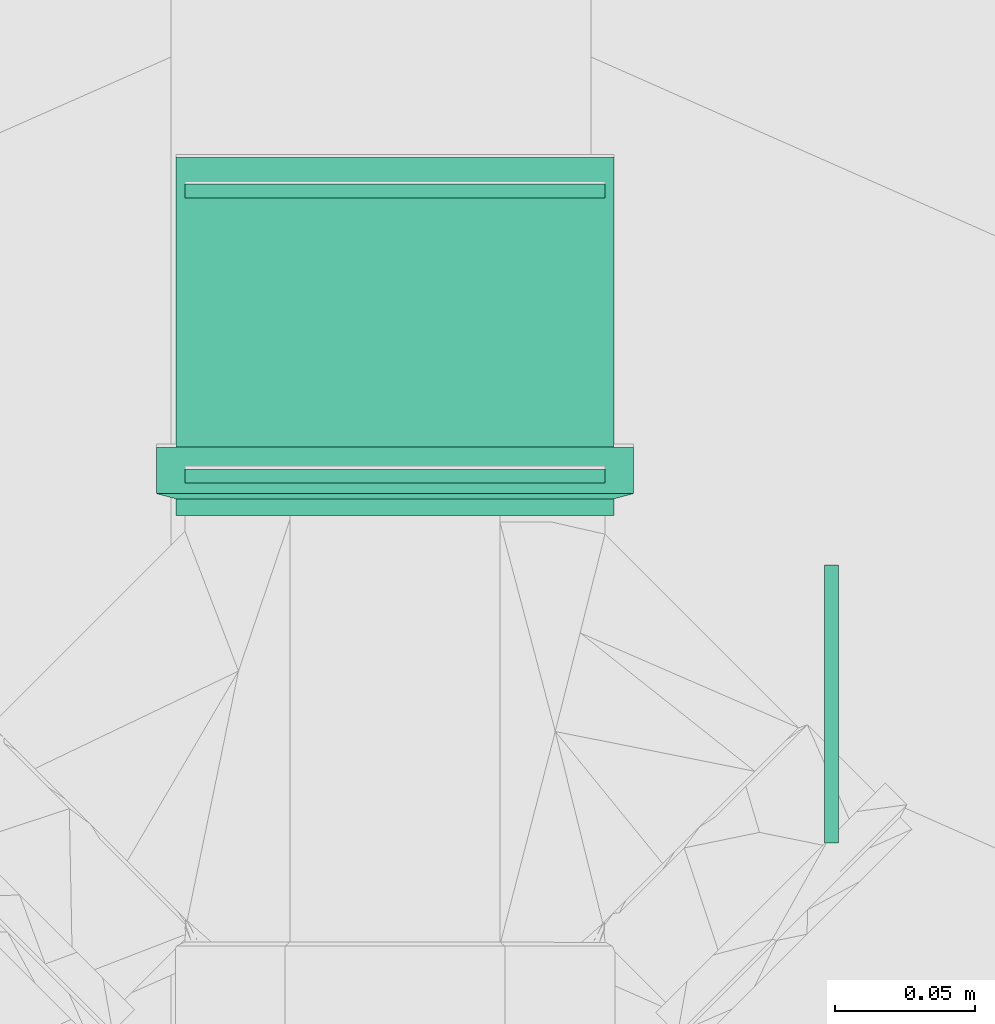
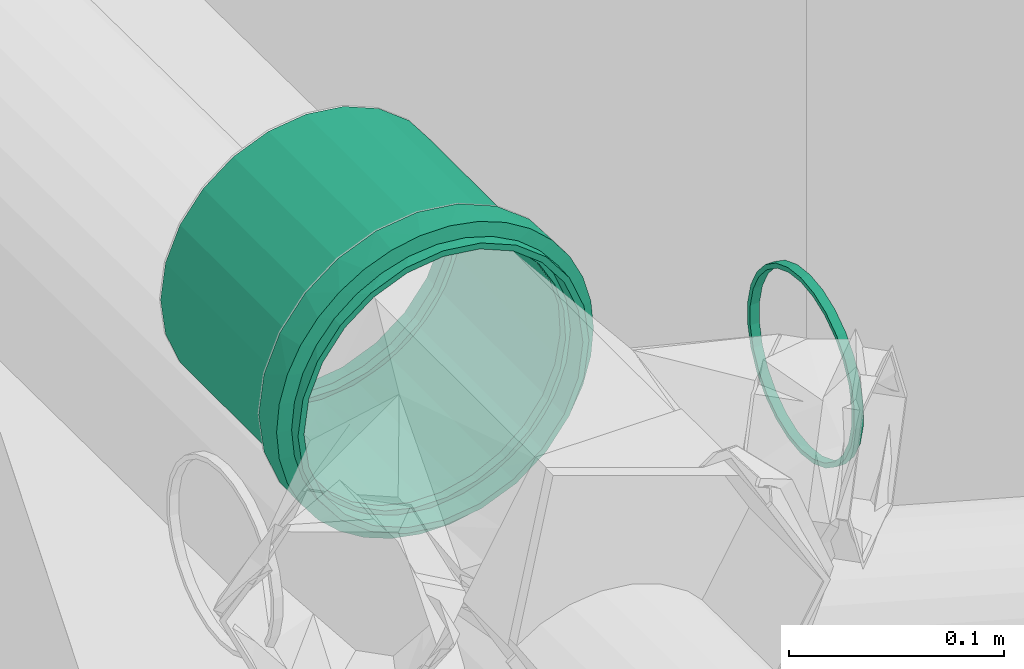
# One storey, part 98 of 166: 4 flow fittings.
"""IFC2X3 building model written with IfcOpenShell, lengths in metres."""

import ifcopenshell
import ifcopenshell.guid

model = None  # the IFC model being written
_history = None  # IfcOwnerHistory: only IFC2X3 demands one
_inside = {}  # id of a spatial element -> (the spatial element, [elements in it])
_under = {}  # id of a project, library or spatial element -> (it, [spatial elements below it])
_declared = {}  # id of a project -> (the project, [libraries it declares])
_typed = {}  # id of a type object -> (the type object, [elements of that type])
_made_of = {}  # id of a material, layer set ... -> (it, [elements and type objects made of it])


def new_model(schema):
    """Start an empty IFC model of exactly this schema.

    Asked for "IFC4X3", IfcOpenShell would pick the latest addendum, in which some entities
    have other attributes; the version numbers below select the first issue.
    IFC2X3 requires an IfcOwnerHistory on every rooted entity: one is made here for all.
    """
    global model, _history
    if schema == "IFC4X3":
        model = ifcopenshell.file(schema_version=(4, 3, 0, 0))
    else:
        model = ifcopenshell.file(schema=schema)
    _inside.clear()
    _under.clear()
    _declared.clear()
    _typed.clear()
    _made_of.clear()
    _history = None
    if model.schema == "IFC2X3":
        org = make("IfcOrganization", Name="unknown")
        user = make(
            "IfcPersonAndOrganization",
            ThePerson=make("IfcPerson", FamilyName="unknown"),
            TheOrganization=org,
        )
        app = make(
            "IfcApplication",
            ApplicationDeveloper=org,
            Version="unknown",
            ApplicationFullName="unknown",
            ApplicationIdentifier="unknown",
        )
        _history = make(
            "IfcOwnerHistory",
            OwningUser=user,
            OwningApplication=app,
            ChangeAction="ADDED",
            CreationDate=0,
        )
    return model


def make(cls, **values):
    """One entity of the class cls with the attributes given. An attribute that is None is left unset."""
    return model.create_entity(
        cls, **{name: value for name, value in values.items() if value is not None}
    )


def entity(cls, *values):
    """Any entity or typed value of the class cls, its attributes in the order of the schema. None: left unset."""
    e = model.create_entity(cls)
    for i, value in enumerate(values):
        if value is not None:
            e[i] = value
    return e


def rooted(cls, **values):
    """An entity with a GlobalId (a new one), such as an element, a storey or a relation."""
    return make(cls, GlobalId=ifcopenshell.guid.new(), OwnerHistory=_history, **values)


def si_unit(unit_type, name, prefix=None):
    """IfcSIUnit, for example si_unit("LENGTHUNIT", "METRE", prefix="MILLI")."""
    return make("IfcSIUnit", UnitType=unit_type, Prefix=prefix, Name=name)


def converted_unit(unit_type, name, factor, base, dimensions=None, offset=None):
    """IfcConversionBasedUnit, such as the inch: factor (a typed value) times the base unit."""
    return make(
        "IfcConversionBasedUnit"
        if offset is None
        else "IfcConversionBasedUnitWithOffset",
        ConversionOffset=offset,
        Dimensions=None
        if dimensions is None
        else entity("IfcDimensionalExponents", *dimensions),
        UnitType=unit_type,
        Name=name,
        ConversionFactor=make(
            "IfcMeasureWithUnit", ValueComponent=factor, UnitComponent=base
        ),
    )


def assignment(units):
    """IfcUnitAssignment: the units of a project."""
    return None if units is None else make("IfcUnitAssignment", Units=units)


def point(xyz):
    """IfcCartesianPoint."""
    return None if xyz is None else make("IfcCartesianPoint", Coordinates=xyz)


def direction(xyz):
    """IfcDirection."""
    return None if xyz is None else make("IfcDirection", DirectionRatios=xyz)


def frame(location, z_axis=None, x_axis=None):
    """IfcAxis2Placement3D, a coordinate frame: its origin and axes. An axis left out is left unset."""
    return make(
        "IfcAxis2Placement3D",
        Location=point(location),
        Axis=direction(z_axis),
        RefDirection=direction(x_axis),
    )


def frame_2d(location, x_axis=None):
    """IfcAxis2Placement2D, a coordinate frame in the plane: its origin and x axis."""
    return make(
        "IfcAxis2Placement2D", Location=point(location), RefDirection=direction(x_axis)
    )


def origin():
    """The frame at (0, 0, 0) with its axes left unset."""
    return frame((0.0, 0.0, 0.0))


def place(relative_to, where):
    """IfcLocalPlacement: puts the frame where relative to a parent placement (None: the world)."""
    return make(
        "IfcLocalPlacement", PlacementRelTo=relative_to, RelativePlacement=where
    )


def context(
    kind, dimensions, precision=None, world=None, true_north=None, identifier=None
):
    """IfcGeometricRepresentationContext, for example the 3D "Model" context."""
    return make(
        "IfcGeometricRepresentationContext",
        ContextIdentifier=identifier,
        ContextType=kind,
        CoordinateSpaceDimension=dimensions,
        Precision=precision,
        WorldCoordinateSystem=world,
        TrueNorth=true_north,
    )


def subcontext(parent, identifier, kind, view, scale=None):
    """IfcGeometricRepresentationSubContext, for example "Body" below "Model"."""
    return make(
        "IfcGeometricRepresentationSubContext",
        ContextIdentifier=identifier,
        ContextType=kind,
        ParentContext=parent,
        TargetScale=scale,
        TargetView=view,
    )


def project(units=None, contexts=None):
    """IfcProject with its units and contexts."""
    return rooted(
        "IfcProject",
        Name="project",
        RepresentationContexts=contexts,
        UnitsInContext=assignment(units),
    )


def spatial(cls, under=None, at=None, **own):
    """A site, building, storey or space (cls), placed at a placement, below another one or the project."""
    s = rooted(cls, ObjectPlacement=at, **own)
    if under is not None:
        _under.setdefault(under.id(), (under, []))[1].append(s)
    return s


def profile(cls, at=None, kind="AREA", **sizes):
    """A parametric profile (cls). Its sizes go by their IFC names, for example OverallWidth=200.0."""
    return make(cls, ProfileType=kind, Position=at, **sizes)


def hollow_circle(**sizes):
    """IfcCircleHollowProfileDef."""
    return profile("IfcCircleHollowProfileDef", **sizes)


def extrude(swept, where, along, depth):
    """IfcExtrudedAreaSolid: the profile swept, set in the frame where, extruded along a direction by depth."""
    return make(
        "IfcExtrudedAreaSolid",
        SweptArea=swept,
        Position=where,
        ExtrudedDirection=direction(along),
        Depth=depth,
    )


def faces_of(points, faces, orient=None, outer=None):
    """IfcFace entities. A face is a list of loops; a loop is a list of indices into points, from 0.

    orient and outer hold one flag for each loop. By default every Orientation is true, the
    first loop of a face is its IfcFaceOuterBound and the others are IfcFaceBound.
    """
    made = []
    for i, loops in enumerate(faces):
        bounds = []
        for j, loop in enumerate(loops):
            is_outer = j == 0 if outer is None else outer[i][j]
            bounds.append(
                make(
                    "IfcFaceOuterBound" if is_outer else "IfcFaceBound",
                    Bound=make("IfcPolyLoop", Polygon=[points[k] for k in loop]),
                    Orientation=True if orient is None else orient[i][j],
                )
            )
        made.append(make("IfcFace", Bounds=bounds))
    return made


def faceted_brep(points, faces, orient=None, outer=None, voids=None):
    """IfcFacetedBrep: a solid bounded by flat faces; with voids (closed shells), ...WithVoids."""
    shared = [point(p) for p in points]
    hull = make("IfcClosedShell", CfsFaces=faces_of(shared, faces, orient, outer))
    if voids is None:
        return make("IfcFacetedBrep", Outer=hull)
    return make(
        "IfcFacetedBrepWithVoids",
        Outer=hull,
        Voids=[
            make(cls, CfsFaces=faces_of(shared, fs, o, b)) for cls, fs, o, b in voids
        ],
    )


def shape(context_of_items, identifier, shape_type, items):
    """IfcShapeRepresentation: the items that make up one representation, for example the "Body"."""
    return make(
        "IfcShapeRepresentation",
        ContextOfItems=context_of_items,
        RepresentationIdentifier=identifier,
        RepresentationType=shape_type,
        Items=items,
    )


def source(mapping_origin, context_of_items, identifier, shape_type, items):
    """IfcRepresentationMap: a shape defined once, which mapped items show again and again."""
    return make(
        "IfcRepresentationMap",
        MappingOrigin=mapping_origin,
        MappedRepresentation=shape(context_of_items, identifier, shape_type, items),
    )


def transform(
    local_origin,
    x_axis=None,
    y_axis=None,
    z_axis=None,
    scale=None,
    scale2=None,
    scale3=None,
    uniform=True,
):
    """IfcCartesianTransformationOperator3D, or its non-uniform kind. x_axis, y_axis, z_axis: its Axis1, 2, 3."""
    if uniform:
        return make(
            "IfcCartesianTransformationOperator3D",
            Axis1=direction(x_axis),
            Axis2=direction(y_axis),
            LocalOrigin=point(local_origin),
            Scale=scale,
            Axis3=direction(z_axis),
        )
    return make(
        "IfcCartesianTransformationOperator3DnonUniform",
        Axis1=direction(x_axis),
        Axis2=direction(y_axis),
        LocalOrigin=point(local_origin),
        Scale=scale,
        Axis3=direction(z_axis),
        Scale2=scale2,
        Scale3=scale3,
    )


def mapped(mapping_source, mapping_target):
    """IfcMappedItem: shows the shape of a source again, moved by a transform."""
    return make(
        "IfcMappedItem", MappingSource=mapping_source, MappingTarget=mapping_target
    )


def material(Name=None, Category=None):
    """IfcMaterial."""
    return make("IfcMaterial", Name=Name, Category=Category)


def made_of(thing, what):
    """Note that an element or type object is made of a material, layer set ...; save() writes the relation."""
    if what is not None:
        _made_of.setdefault(what.id(), (what, []))[1].append(thing)
    return thing


def type_object(cls, material=None, **own):
    """A type object (cls), such as IfcWallType, which elements share."""
    return made_of(rooted(cls, **own), material)


def type_shapes(of_type, sources):
    """Give a type object the sources (RepresentationMaps) that its elements show as mapped items."""
    of_type.RepresentationMaps = sources


def element(
    cls,
    number,
    at=None,
    inside=None,
    cuts=None,
    type_object=None,
    material=None,
    context=None,
    identifier="Body",
    shape_type=None,
    held_by="IfcProductDefinitionShape",
    body=None,
    shapes=None,
    **own,
):
    """One element of the class cls, such as IfcWall. Its Tag is "e" and its number.

    at: its placement. inside: the storey or other place that contains it. cuts: it is an
    opening in that element (IfcRelVoidsElement). A single representation is given by context,
    identifier, shape_type and body (its items); several are given by shapes. held_by: the class
    of the entity that holds the representations. save() writes the other relations.
    """
    e = rooted(cls, Tag="e%d" % number, ObjectPlacement=at, **own)
    if body is not None:
        shapes = [shape(context, identifier, shape_type, body)]
    if shapes is not None:
        e.Representation = make(held_by, Representations=shapes)
    if inside is not None:
        _inside.setdefault(inside.id(), (inside, []))[1].append(e)
    if cuts is not None:
        rooted(
            "IfcRelVoidsElement", RelatingBuildingElement=cuts, RelatedOpeningElement=e
        )
    if type_object is not None:
        _typed.setdefault(type_object.id(), (type_object, []))[1].append(e)
    return made_of(e, material)


def aggregate(whole, parts):
    """IfcRelAggregates: a whole, such as a stair, and the parts it consists of."""
    return rooted("IfcRelAggregates", RelatingObject=whole, RelatedObjects=parts)


def save(model, path):
    """Write the relations noted so far, then the file.

    IfcRelAggregates (storeys below a building ...), IfcRelContainedInSpatialStructure (elements
    in a storey), IfcRelDefinesByType, IfcRelAssociatesMaterial and IfcRelDeclares: one each for
    every whole, place, type object, material and project.
    """
    for whole, parts in _under.values():
        aggregate(whole, parts)
    for where, things in _inside.values():
        rooted(
            "IfcRelContainedInSpatialStructure",
            RelatedElements=things,
            RelatingStructure=where,
        )
    for kind, things in _typed.values():
        rooted("IfcRelDefinesByType", RelatedObjects=things, RelatingType=kind)
    for what, things in _made_of.values():
        rooted("IfcRelAssociatesMaterial", RelatedObjects=things, RelatingMaterial=what)
    for by, libraries in _declared.values():
        rooted("IfcRelDeclares", RelatingContext=by, RelatedDefinitions=libraries)
    model.write(path)


model = new_model("IFC2X3")

# Units and contexts
model_context = context("Model", 3, precision=1e-05, world=origin(), true_north=direction((6.123233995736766e-17, 1.0)))
body_context = subcontext(model_context, "Body", "Model", "MODEL_VIEW")
ifc_project = project(units=[si_unit("LENGTHUNIT", "METRE"), converted_unit("PLANEANGLEUNIT", "DEGREE", entity("IfcPlaneAngleMeasure", 0.017453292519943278), si_unit("PLANEANGLEUNIT", "RADIAN"), dimensions=[0, 0, 0, 0, 0, 0, 0]), si_unit("AREAUNIT", "SQUARE_METRE")], contexts=[model_context])

# Site, building, storey
site_placement = place(None, origin())
site = spatial("IfcSite", under=ifc_project, at=site_placement, Name="Default", CompositionType="ELEMENT")
building_placement = place(site_placement, origin())
building = spatial("IfcBuilding", under=site, at=building_placement, Name="CASA DE ACOLHIDA PARA IDOSOS", CompositionType="ELEMENT")
storey_placement = place(building_placement, frame((0.0, 0.0, -1.7499999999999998)))
storey = spatial("IfcBuildingStorey", under=building, at=storey_placement, Name="IMPLANTAÇÃO DRENAGEM", CompositionType="ELEMENT", Elevation=-1.7499999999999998)

# Flow fittings
ifc_material_1 = material(Name="PVC Bege Pérola")
pipe_fitting_type_1 = type_object("IfcPipeFittingType", Name="PLUV_Serie Reforcada_Luva Simples:Standard", PredefinedType="NOTDEFINED", material=ifc_material_1)
shared_shape_1 = source(origin(), body_context, "Body", "Brep", [
    faceted_brep([(0.02451000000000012, 0.04262500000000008, -0.07382866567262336), (0.02451000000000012, 0.06028085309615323, -0.06028085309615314), (0.02451000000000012, 0.039124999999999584, -0.06776648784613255), (0.02451000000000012, 0.020252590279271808, -0.0755836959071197), (0.02451000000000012, 0.022064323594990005, -0.08234517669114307), (0.02451000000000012, 0.05533110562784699, -0.055331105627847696), (0.02451000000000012, 0.07382866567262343, -0.04262499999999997), (0.02451000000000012, 0.06776648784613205, -0.03912500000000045), (0.02451000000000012, 0.07558369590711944, -0.02025259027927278), (0.02451000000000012, 0.08234517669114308, -0.022064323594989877), (0.02451000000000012, 0.07825, 0.0), (0.02451000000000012, 0.08525, 0.0), (0.02451000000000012, 0.07558369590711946, 0.020252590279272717), (0.02451000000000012, 0.0823451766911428, 0.022064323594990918), (0.02451000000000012, 0.06776648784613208, 0.039125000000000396), (0.02451000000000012, 0.07382866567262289, 0.04262500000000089), (0.02451000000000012, 0.05533110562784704, 0.055331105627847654), (0.02451000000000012, 0.06028085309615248, 0.0602808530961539), (0.02451000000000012, 0.03912499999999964, 0.06776648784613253), (0.02451000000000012, 0.04262499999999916, 0.07382866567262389), (0.02451000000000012, 0.020252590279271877, 0.07558369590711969), (0.02451000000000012, 0.02206432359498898, 0.08234517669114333), (0.02451000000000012, 0.0, 0.07825), (0.02451000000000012, 0.0, 0.08525), (0.02451000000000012, -0.020252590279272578, 0.0755836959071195), (0.02451000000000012, -0.022064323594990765, 0.08234517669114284), (0.02451000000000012, -0.03912500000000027, 0.06776648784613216), (0.02451000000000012, -0.042625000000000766, 0.07382866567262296), (0.02451000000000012, -0.05533110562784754, 0.055331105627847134), (0.02451000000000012, -0.0602808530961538, 0.06028085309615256), (0.02451000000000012, -0.06776648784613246, 0.03912499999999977), (0.02451000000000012, -0.07382866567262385, 0.042624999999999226), (0.02451000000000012, -0.08234517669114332, 0.02206432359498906), (0.02451000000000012, -0.07558369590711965, 0.020252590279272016), (0.02451000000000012, -0.08525, 0.0), (0.02451000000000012, -0.07825, 0.0), (0.02451000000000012, -0.08234517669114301, -0.022064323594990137), (0.02451000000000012, -0.07558369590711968, -0.020252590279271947), (0.02451000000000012, -0.07382866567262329, -0.04262500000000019), (0.02451000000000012, -0.0677664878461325, -0.03912499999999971), (0.02451000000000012, -0.060280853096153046, -0.060280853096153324), (0.02451000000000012, -0.05533110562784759, -0.055331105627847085), (0.02451000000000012, -0.042624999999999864, -0.0738286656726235), (0.02451000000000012, -0.039125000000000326, -0.06776648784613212), (0.02451000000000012, -0.02206432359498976, -0.08234517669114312), (0.02451000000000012, -0.02025259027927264, -0.07558369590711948), (0.02451000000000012, 0.0, -0.08525), (0.02451000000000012, 0.0, -0.07825), (0.007830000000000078, -0.08379835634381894, 0.01566518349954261), (0.007830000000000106, -0.07949286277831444, 0.03079687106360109), (0.007830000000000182, -0.05137242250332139, 0.06803261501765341), (0.007830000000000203, -0.03799626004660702, 0.07631413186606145), (0.007830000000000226, -0.00786152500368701, 0.08488674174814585), (0.00783000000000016, -0.06299903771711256, 0.057434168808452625), (0.007830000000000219, -0.023326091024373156, 0.08199668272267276), (0.007830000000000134, -0.07248014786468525, 0.044879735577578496), (0.00783000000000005, -0.08525, 0.0), (0.00783000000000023, 0.007870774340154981, 0.08488588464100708), (0.007830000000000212, 0.03800457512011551, 0.07630999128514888), (0.007830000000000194, 0.05137983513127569, 0.06802701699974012), (0.007830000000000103, 0.07949621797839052, 0.030788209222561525), (0.007830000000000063, 0.08380006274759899, 0.015656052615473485), (0.007830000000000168, 0.06300529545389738, 0.05742730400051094), (0.00783000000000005, 0.08525, 0.0), (0.007830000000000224, 0.023335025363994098, 0.08199414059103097), (0.007830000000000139, 0.07248503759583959, 0.04487183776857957), (0.007830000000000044, 0.08380006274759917, -0.015656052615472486), (0.007830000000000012, 0.07949621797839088, -0.03078820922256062), (0.00782999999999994, 0.05137983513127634, -0.06802701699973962), (0.007829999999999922, 0.038004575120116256, -0.07630999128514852), (0.007829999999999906, 0.007870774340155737, -0.084885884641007), (0.00782999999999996, 0.063005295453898, -0.05742730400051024), (0.007829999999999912, 0.023335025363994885, -0.08199414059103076), (0.007829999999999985, 0.07248503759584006, -0.04487183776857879), (0.007829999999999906, -0.007861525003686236, -0.0848867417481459), (0.007829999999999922, -0.037996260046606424, -0.07631413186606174), (0.007829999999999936, -0.05137242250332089, -0.06803261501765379), (0.00783, -0.07949286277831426, -0.030796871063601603), (0.007830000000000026, -0.08379835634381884, -0.015665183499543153), (0.007829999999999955, -0.06299903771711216, -0.057434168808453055), (0.007829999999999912, -0.023326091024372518, -0.08199668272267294), (0.007829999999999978, -0.07248014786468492, -0.044879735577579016), (0.1280100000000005, 0.03912500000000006, -0.06776648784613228), (0.1280100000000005, 0.055331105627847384, -0.05533110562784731), (0.1280100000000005, 0.0374999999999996, -0.06495190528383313), (0.1280100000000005, 0.01941142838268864, -0.07244443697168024), (0.1280100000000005, 0.020252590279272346, -0.07558369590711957), (0.1280100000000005, 0.05303300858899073, -0.053033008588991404), (0.1280100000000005, 0.06776648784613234, -0.039124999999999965), (0.1280100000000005, 0.06495190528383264, -0.03750000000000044), (0.1280100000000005, 0.07244443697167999, -0.01941142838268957), (0.1280100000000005, 0.07558369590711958, -0.020252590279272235), (0.1280100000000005, 0.07500000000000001, 0.0), (0.1280100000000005, 0.07825, 0.0), (0.1280100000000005, 0.07244443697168, 0.019411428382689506), (0.1280100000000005, 0.07558369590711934, 0.020252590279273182), (0.1280100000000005, 0.06495190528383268, 0.03750000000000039), (0.1280100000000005, 0.06776648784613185, 0.03912500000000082), (0.1280100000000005, 0.05303300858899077, 0.05303300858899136), (0.1280100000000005, 0.0553311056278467, 0.055331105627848), (0.1280100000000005, 0.03749999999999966, 0.0649519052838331), (0.1280100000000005, 0.039124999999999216, 0.06776648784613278), (0.1280100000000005, 0.0194114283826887, 0.07244443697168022), (0.1280100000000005, 0.020252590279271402, 0.07558369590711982), (0.1280100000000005, 0.0, 0.07500000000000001), (0.1280100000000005, 0.0, 0.07825), (0.1280100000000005, -0.019411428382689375, 0.07244443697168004), (0.1280100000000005, -0.020252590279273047, 0.07558369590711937), (0.1280100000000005, -0.03750000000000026, 0.06495190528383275), (0.1280100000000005, -0.039125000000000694, 0.06776648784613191), (0.1280100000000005, -0.05303300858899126, 0.05303300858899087), (0.1280100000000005, -0.055331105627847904, 0.05533110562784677), (0.1280100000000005, -0.06495190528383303, 0.037499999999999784), (0.1280100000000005, -0.06776648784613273, 0.039124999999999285), (0.1280100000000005, -0.0755836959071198, 0.02025259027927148), (0.1280100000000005, -0.07244443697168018, 0.019411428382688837), (0.1280100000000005, -0.07825, 0.0), (0.1280100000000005, -0.07500000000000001, 0.0), (0.1280100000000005, -0.07558369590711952, -0.020252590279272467), (0.1280100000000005, -0.0724444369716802, -0.01941142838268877), (0.1280100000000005, -0.06776648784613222, -0.039125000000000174), (0.1280100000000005, -0.06495190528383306, -0.03749999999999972), (0.1280100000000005, -0.05533110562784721, -0.05533110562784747), (0.1280100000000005, -0.053033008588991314, -0.05303300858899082), (0.1280100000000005, -0.03912499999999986, -0.0677664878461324), (0.1280100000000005, -0.03750000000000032, -0.06495190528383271), (0.1280100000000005, -0.02025259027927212, -0.07558369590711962), (0.1280100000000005, -0.019411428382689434, -0.07244443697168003), (0.1280100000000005, 0.0, -0.07825), (0.1280100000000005, 0.0, -0.07500000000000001), (0.0, 0.0374999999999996, -0.06495190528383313), (0.0, 0.055331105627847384, -0.05533110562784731), (0.0, 0.03912500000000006, -0.06776648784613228), (0.0, 0.01941142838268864, -0.07244443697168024), (0.0, 0.05303300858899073, -0.053033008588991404), (0.0, 0.06776648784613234, -0.039124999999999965), (0.0, 0.06495190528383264, -0.03750000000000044), (0.0, 0.07244443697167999, -0.01941142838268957), (0.0, 0.07558369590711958, -0.020252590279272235), (0.0, 0.07500000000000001, 0.0), (0.0, 0.07825, 0.0), (0.0, 0.07244443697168, 0.019411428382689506), (0.0, 0.07558369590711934, 0.020252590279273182), (0.0, 0.06495190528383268, 0.03750000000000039), (0.0, 0.06776648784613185, 0.03912500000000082), (0.0, 0.05303300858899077, 0.05303300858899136), (0.0, 0.0553311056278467, 0.055331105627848), (0.0, 0.03749999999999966, 0.0649519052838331), (0.0, 0.039124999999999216, 0.06776648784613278), (0.0, 0.0194114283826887, 0.07244443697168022), (0.0, 0.020252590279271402, 0.07558369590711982), (0.0, 0.0, 0.07500000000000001), (0.0, 0.0, 0.07825), (0.0, -0.019411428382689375, 0.07244443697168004), (0.0, -0.020252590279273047, 0.07558369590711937), (0.0, -0.03750000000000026, 0.06495190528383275), (0.0, -0.039125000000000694, 0.06776648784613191), (0.0, -0.05303300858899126, 0.05303300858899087), (0.0, -0.055331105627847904, 0.05533110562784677), (0.0, -0.06495190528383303, 0.037499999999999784), (0.0, -0.06776648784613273, 0.039124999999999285), (0.0, -0.0755836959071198, 0.02025259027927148), (0.0, -0.07244443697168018, 0.019411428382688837), (0.0, -0.07825, 0.0), (0.0, -0.07500000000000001, 0.0), (0.0, -0.07558369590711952, -0.020252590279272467), (0.0, -0.0724444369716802, -0.01941142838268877), (0.0, -0.06776648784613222, -0.039125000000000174), (0.0, -0.06495190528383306, -0.03749999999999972), (0.0, -0.05533110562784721, -0.05533110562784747), (0.0, -0.053033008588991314, -0.05303300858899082), (0.0, -0.03912499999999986, -0.0677664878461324), (0.0, -0.03750000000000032, -0.06495190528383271), (0.0, -0.02025259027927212, -0.07558369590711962), (0.0, -0.019411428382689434, -0.07244443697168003), (0.0, 0.0, -0.07825), (0.0, 0.0, -0.07500000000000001), (0.0, 0.020252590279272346, -0.07558369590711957), (0.005950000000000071, -0.07674636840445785, 0.015266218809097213), (0.0059500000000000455, -0.07825, 0.0), (0.005950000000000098, -0.0722932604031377, 0.02994573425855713), (0.005950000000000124, -0.06506181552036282, 0.043474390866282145), (0.005950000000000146, -0.05532994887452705, 0.05533226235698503), (0.005950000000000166, -0.04347167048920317, 0.06506363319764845), (0.005950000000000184, -0.029942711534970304, 0.07229451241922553), (0.005950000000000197, -0.015263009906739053, 0.07674700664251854), (0.005950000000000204, 3.271758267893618e-06, 0.07824999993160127), (0.005950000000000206, 0.015269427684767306, 0.07674573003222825), (0.005950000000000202, 0.029948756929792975, 0.07229200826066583), (0.00595000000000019, 0.04347711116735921, 0.0650599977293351), (0.005950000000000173, 0.055334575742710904, 0.05532763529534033), (0.0059500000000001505, 0.06506545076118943, 0.043468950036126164), (0.005950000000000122, 0.07229576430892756, 0.02993968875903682), (0.005950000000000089, 0.07674764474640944, 0.015259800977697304), (0.0059500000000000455, 0.07825, 0.0), (0.0059499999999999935, 0.07674764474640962, -0.015259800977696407), (0.005949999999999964, 0.0722957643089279, -0.02993968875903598), (0.005949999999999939, 0.06506545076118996, -0.04346895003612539), (0.005949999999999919, 0.05533457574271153, -0.05532763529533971), (0.005949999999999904, 0.04347711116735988, -0.06505999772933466), (0.005949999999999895, 0.029948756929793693, -0.07229200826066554), (0.00594999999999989, 0.015269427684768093, -0.0767457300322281), (0.005949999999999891, 3.2717582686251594e-06, -0.07824999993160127), (0.00594999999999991, -0.029942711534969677, -0.0722945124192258), (0.005949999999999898, -0.015263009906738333, -0.07674700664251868), (0.005949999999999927, -0.04347167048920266, -0.0650636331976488), (0.005949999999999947, -0.055329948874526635, -0.055332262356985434), (0.00594999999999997, -0.06506181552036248, -0.043474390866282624), (0.005949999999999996, -0.0722932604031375, -0.02994573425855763), (0.00595000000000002, -0.07674636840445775, -0.015266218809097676), (0.06700000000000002, -0.07500000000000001, 0.0), (0.067, 0.07500000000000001, 0.0)], [[[0, 1, 2]], [[0, 2, 3]], [[3, 4, 0]], [[2, 1, 5]], [[6, 5, 1]], [[5, 6, 7]], [[7, 6, 8]], [[9, 8, 6]], [[9, 10, 8]], [[10, 9, 11]], [[12, 10, 11]], [[11, 13, 12]], [[12, 13, 14]], [[15, 14, 13]], [[14, 15, 16]], [[16, 15, 17]], [[18, 16, 17]], [[17, 19, 18]], [[18, 19, 20]], [[21, 20, 19]], [[20, 21, 22]], [[22, 21, 23]], [[22, 23, 24]], [[24, 23, 25]], [[24, 25, 26]], [[27, 26, 25]], [[27, 28, 26]], [[28, 27, 29]], [[29, 30, 28]], [[31, 30, 29]], [[30, 31, 32]], [[32, 33, 30]], [[34, 33, 32]], [[34, 35, 33]], [[36, 35, 34]], [[36, 37, 35]], [[37, 36, 38]], [[38, 39, 37]], [[39, 38, 40]], [[39, 40, 41]], [[40, 42, 41]], [[41, 42, 43]], [[43, 42, 44]], [[44, 45, 43]], [[46, 45, 44]], [[4, 47, 46]], [[46, 47, 45]], [[4, 3, 47]], [[32, 48, 34]], [[31, 49, 32]], [[50, 29, 27]], [[27, 25, 51]], [[52, 25, 23]], [[31, 29, 53]], [[52, 54, 25]], [[55, 49, 31]], [[49, 48, 32]], [[48, 56, 34]], [[51, 50, 27]], [[53, 29, 50]], [[53, 55, 31]], [[51, 25, 54]], [[21, 57, 23]], [[58, 21, 19]], [[19, 17, 59]], [[60, 15, 13]], [[13, 11, 61]], [[17, 15, 62]], [[11, 63, 61]], [[59, 58, 19]], [[58, 64, 21]], [[64, 57, 21]], [[60, 65, 15]], [[62, 15, 65]], [[62, 59, 17]], [[60, 13, 61]], [[23, 57, 52]], [[9, 66, 11]], [[6, 67, 9]], [[68, 1, 0]], [[0, 4, 69]], [[70, 4, 46]], [[6, 1, 71]], [[70, 72, 4]], [[73, 67, 6]], [[67, 66, 9]], [[66, 63, 11]], [[69, 68, 0]], [[71, 1, 68]], [[71, 73, 6]], [[69, 4, 72]], [[44, 74, 46]], [[75, 44, 42]], [[42, 40, 76]], [[38, 36, 77]], [[78, 36, 34]], [[34, 56, 78]], [[40, 38, 79]], [[78, 77, 36]], [[76, 75, 42]], [[75, 80, 44]], [[80, 74, 44]], [[79, 38, 81]], [[79, 76, 40]], [[77, 81, 38]], [[46, 74, 70]], [[82, 83, 84]], [[82, 84, 85]], [[85, 86, 82]], [[84, 83, 87]], [[88, 87, 83]], [[87, 88, 89]], [[89, 88, 90]], [[91, 90, 88]], [[91, 92, 90]], [[92, 91, 93]], [[94, 92, 93]], [[93, 95, 94]], [[94, 95, 96]], [[97, 96, 95]], [[96, 97, 98]], [[98, 97, 99]], [[100, 98, 99]], [[99, 101, 100]], [[100, 101, 102]], [[103, 102, 101]], [[102, 103, 104]], [[104, 103, 105]], [[104, 105, 106]], [[106, 105, 107]], [[106, 107, 108]], [[109, 108, 107]], [[110, 108, 109]], [[110, 109, 111]], [[111, 112, 110]], [[113, 112, 111]], [[112, 113, 114]], [[114, 115, 112]], [[116, 115, 114]], [[116, 117, 115]], [[118, 117, 116]], [[118, 119, 117]], [[119, 118, 120]], [[120, 121, 119]], [[121, 120, 122]], [[121, 122, 123]], [[122, 124, 123]], [[125, 123, 124]], [[125, 124, 126]], [[126, 127, 125]], [[128, 127, 126]], [[86, 129, 128]], [[128, 129, 127]], [[86, 85, 129]], [[130, 131, 132]], [[133, 130, 132]], [[134, 131, 130]], [[131, 134, 135]], [[136, 135, 134]], [[137, 135, 136]], [[135, 137, 138]], [[137, 139, 138]], [[140, 138, 139]], [[140, 139, 141]], [[141, 142, 140]], [[143, 142, 141]], [[142, 143, 144]], [[145, 144, 143]], [[146, 144, 145]], [[146, 145, 147]], [[147, 148, 146]], [[149, 148, 147]], [[148, 149, 150]], [[151, 150, 149]], [[152, 150, 151]], [[153, 152, 151]], [[154, 152, 153]], [[155, 154, 153]], [[154, 155, 156]], [[156, 155, 157]], [[158, 156, 157]], [[157, 159, 158]], [[158, 159, 160]], [[161, 160, 159]], [[159, 162, 161]], [[161, 162, 163]], [[162, 164, 163]], [[163, 164, 165]], [[164, 166, 165]], [[167, 165, 166]], [[166, 168, 167]], [[169, 167, 168]], [[170, 169, 168]], [[170, 171, 169]], [[171, 170, 172]], [[173, 171, 172]], [[172, 174, 173]], [[173, 174, 175]], [[174, 176, 175]], [[176, 133, 177]], [[175, 176, 177]], [[132, 177, 133]], [[178, 163, 179]], [[180, 161, 178]], [[158, 181, 182]], [[182, 183, 158]], [[180, 181, 160]], [[184, 156, 183]], [[158, 160, 181]], [[160, 161, 180]], [[161, 163, 178]], [[185, 152, 154]], [[152, 185, 186]], [[156, 184, 154]], [[156, 158, 183]], [[185, 154, 184]], [[150, 152, 187]], [[188, 150, 187]], [[146, 189, 190]], [[190, 191, 146]], [[188, 189, 148]], [[192, 144, 191]], [[144, 146, 191]], [[146, 148, 189]], [[148, 150, 188]], [[193, 194, 140]], [[140, 142, 193]], [[142, 144, 192]], [[192, 193, 142]], [[187, 152, 186]], [[195, 140, 194]], [[196, 138, 195]], [[131, 197, 198]], [[198, 199, 131]], [[196, 197, 135]], [[200, 132, 199]], [[131, 135, 197]], [[135, 138, 196]], [[138, 140, 195]], [[177, 201, 175]], [[132, 200, 177]], [[201, 202, 175]], [[132, 131, 199]], [[201, 177, 200]], [[203, 173, 204]], [[205, 171, 203]], [[169, 206, 207]], [[167, 207, 208]], [[205, 206, 169]], [[165, 208, 209]], [[169, 171, 205]], [[171, 173, 203]], [[173, 175, 204]], [[163, 165, 209]], [[167, 208, 165]], [[167, 169, 207]], [[163, 209, 179]], [[204, 175, 202]], [[81, 208, 207]], [[179, 209, 78]], [[209, 208, 77]], [[205, 203, 75]], [[76, 206, 205]], [[206, 79, 207]], [[204, 80, 203]], [[78, 209, 77]], [[56, 179, 78]], [[77, 208, 81]], [[74, 80, 204]], [[76, 79, 206]], [[75, 76, 205]], [[80, 75, 203]], [[81, 207, 79]], [[204, 202, 74]], [[72, 201, 200]], [[201, 70, 202]], [[199, 69, 200]], [[196, 195, 67]], [[73, 197, 196]], [[198, 197, 71]], [[198, 68, 199]], [[66, 195, 194]], [[68, 69, 199]], [[72, 70, 201]], [[69, 72, 200]], [[63, 66, 194]], [[73, 71, 197]], [[67, 73, 196]], [[66, 67, 195]], [[68, 198, 71]], [[202, 70, 74]], [[65, 192, 191]], [[194, 193, 61]], [[193, 192, 60]], [[189, 188, 58]], [[59, 190, 189]], [[190, 62, 191]], [[187, 64, 188]], [[61, 193, 60]], [[63, 194, 61]], [[60, 192, 65]], [[57, 64, 187]], [[59, 62, 190]], [[58, 59, 189]], [[64, 58, 188]], [[65, 191, 62]], [[187, 186, 57]], [[54, 185, 184]], [[185, 52, 186]], [[183, 51, 184]], [[180, 178, 49]], [[55, 181, 180]], [[182, 181, 53]], [[182, 50, 183]], [[48, 178, 179]], [[50, 51, 183]], [[54, 52, 185]], [[51, 54, 184]], [[56, 48, 179]], [[55, 53, 181]], [[49, 55, 180]], [[48, 49, 178]], [[50, 182, 53]], [[186, 52, 57]], [[33, 35, 116, 114]], [[113, 30, 33, 114]], [[26, 28, 111, 109]], [[113, 111, 28, 30]], [[24, 26, 109, 107]], [[107, 105, 22, 24]], [[18, 20, 103, 101]], [[99, 16, 18, 101]], [[12, 14, 97, 95]], [[99, 97, 14, 16]], [[10, 12, 95, 93]], [[103, 20, 22, 105]], [[10, 93, 91, 8]], [[88, 7, 8, 91]], [[82, 86, 3, 2]], [[83, 82, 2, 5]], [[7, 88, 83, 5]], [[86, 128, 47, 3]], [[43, 45, 126, 124]], [[122, 41, 43, 124]], [[37, 39, 120, 118]], [[122, 120, 39, 41]], [[35, 37, 118, 116]], [[126, 45, 47, 128]], [[115, 117, 210, 164, 162]], [[155, 108, 110, 157]], [[110, 112, 159, 157]], [[112, 115, 162, 159]], [[106, 108, 155, 153]], [[153, 151, 104, 106]], [[102, 104, 151, 149]], [[102, 149, 147, 100]], [[141, 94, 96, 143]], [[96, 98, 145, 143]], [[98, 100, 147, 145]], [[92, 94, 141, 139, 211]], [[211, 139, 137, 90, 92]], [[130, 84, 87, 134]], [[89, 90, 137, 136]], [[89, 136, 134, 87]], [[85, 84, 130, 133]], [[133, 176, 129, 85]], [[127, 129, 176, 174]], [[127, 174, 172, 125]], [[166, 119, 121, 168]], [[121, 123, 170, 168]], [[123, 125, 172, 170]], [[117, 119, 166, 164, 210]]]),
])
type_shapes(pipe_fitting_type_1, [shared_shape_1])
flow_fitting_1_placement = place(storey_placement, frame((-21.976366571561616, 23.931342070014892, -1.0), z_axis=(0.0, 0.0, -1.0), x_axis=(0.0, 1.0, 0.0)))
element("IfcFlowFitting", 1, at=flow_fitting_1_placement, inside=storey, type_object=pipe_fitting_type_1, material=ifc_material_1, Name="PLUV_Serie Reforcada_Luva Simples:Standard", ObjectType="PLUV_Serie Reforcada_Luva Simples:Standard", context=body_context, shape_type="MappedRepresentation", body=[
    mapped(shared_shape_1, transform((0.0, 0.0, 0.0), scale=1.0)),
])
ifc_material_2 = material(Name="Borracha")
pipe_fitting_type_2 = type_object("IfcPipeFittingType", Name="AN_PLUV_Anel de vedação para Conexão Série R:AN_PLUV_Anel de vedação para Conexão Série R", PredefinedType="NOTDEFINED", material=ifc_material_2)
shared_shape_2 = source(origin(), body_context, "Body", "SweptSolid", [
    extrude(hollow_circle(Radius=0.05, WallThickness=0.0024999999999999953, at=frame_2d((2.979563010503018e-18, -8.077722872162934e-17), x_axis=(1.0, 0.0))), frame((0.0, 0.0, -0.004999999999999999)), (0.0, 0.0, 1.0), 0.004999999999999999),
])
type_shapes(pipe_fitting_type_2, [shared_shape_2])
flow_fitting_2_placement = place(storey_placement, frame((-21.823020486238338, 23.864025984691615, -1.0), z_axis=(-1.0, 0.0, 0.0), x_axis=(0.0, 0.0, 1.0)))
element("IfcFlowFitting", 2, at=flow_fitting_2_placement, inside=storey, type_object=pipe_fitting_type_2, material=ifc_material_2, Name="AN_PLUV_Anel de vedação para Conexão Série R:AN_PLUV_Anel de vedação para Conexão Série R", ObjectType="AN_PLUV_Anel de vedação para Conexão Série R:AN_PLUV_Anel de vedação para Conexão Série R", context=body_context, shape_type="MappedRepresentation", body=[
    mapped(shared_shape_2, transform((0.0, 0.0, 0.0), scale=1.0)),
])
pipe_fitting_type_3 = type_object("IfcPipeFittingType", Name="AN_PLUV_Anel de vedação para Conexão Série R:AN_PLUV_Anel de vedação para Conexão Série R", PredefinedType="NOTDEFINED", material=ifc_material_2)
shared_shape_3 = source(origin(), body_context, "Body", "SweptSolid", [
    extrude(hollow_circle(Radius=0.07500000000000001, WallThickness=0.0025000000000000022, at=frame_2d((2.979563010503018e-18, -1.21165843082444e-16), x_axis=(1.0, 0.0))), frame((0.0, 0.0, -0.004999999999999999)), (0.0, 0.0, 1.0), 0.004999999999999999),
])
type_shapes(pipe_fitting_type_3, [shared_shape_3])
for number, where, z_axis, x_axis in (
    (3, (-21.976366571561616, 24.044692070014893, -1.0), (0.0, -1.0, 0.0), (0.0, 0.0, 1.0)),
    (4, (-21.976366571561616, 23.947942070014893, -1.0), (0.0, 1.0, 0.0), (0.0, 0.0, 1.0)),
):
    element("IfcFlowFitting", number, at=place(storey_placement, frame(where, z_axis=z_axis, x_axis=x_axis)), inside=storey, type_object=pipe_fitting_type_3, material=ifc_material_2, Name="AN_PLUV_Anel de vedação para Conexão Série R:AN_PLUV_Anel de vedação para Conexão Série R", ObjectType="AN_PLUV_Anel de vedação para Conexão Série R:AN_PLUV_Anel de vedação para Conexão Série R", context=body_context, shape_type="MappedRepresentation", body=[
        mapped(shared_shape_3, transform((0.0, 0.0, 0.0), scale=1.0)),
    ])

save(model, "model.ifc")
